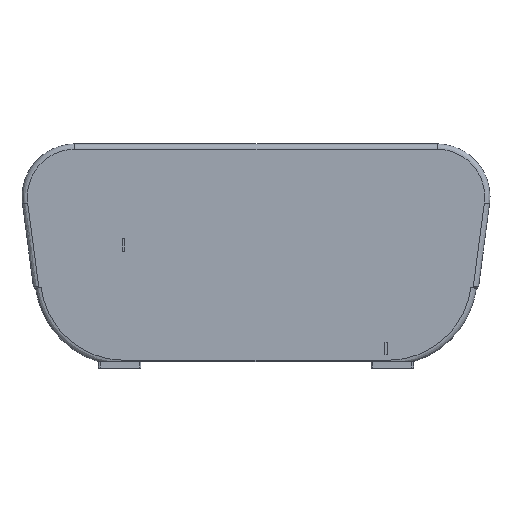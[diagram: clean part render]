
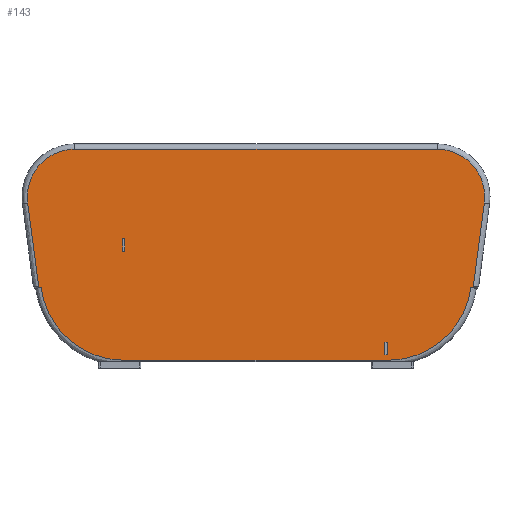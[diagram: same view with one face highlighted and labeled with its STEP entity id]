
A CAD part, left-side view. The second image highlights one B-rep face of the part: STEP entity #143.
In plain terms, the highlighted planar face has unit normal (-1, 0, 0).
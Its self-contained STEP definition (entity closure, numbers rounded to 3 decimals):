
#143=ADVANCED_FACE('',(#217),#1227,.T.);
#217=FACE_OUTER_BOUND('',#291,.T.);
#291=EDGE_LOOP('',(#365,#366,#367,#368,#369,#370,#371,#372,#373,#374));
#365=ORIENTED_EDGE('',*,*,#713,.F.);
#366=ORIENTED_EDGE('',*,*,#718,.F.);
#367=ORIENTED_EDGE('',*,*,#717,.T.);
#368=ORIENTED_EDGE('',*,*,#716,.F.);
#369=ORIENTED_EDGE('',*,*,#719,.F.);
#370=ORIENTED_EDGE('',*,*,#720,.F.);
#371=ORIENTED_EDGE('',*,*,#721,.F.);
#372=ORIENTED_EDGE('',*,*,#722,.F.);
#373=ORIENTED_EDGE('',*,*,#715,.T.);
#374=ORIENTED_EDGE('',*,*,#714,.T.);
#713=EDGE_CURVE('',#1088,#1083,#917,.T.);
#714=EDGE_CURVE('',#1084,#1083,#918,.T.);
#715=EDGE_CURVE('',#1085,#1084,#919,.T.);
#716=EDGE_CURVE('',#1092,#1086,#920,.T.);
#717=EDGE_CURVE('',#1087,#1086,#921,.T.);
#718=EDGE_CURVE('',#1087,#1088,#922,.T.);
#719=EDGE_CURVE('',#1090,#1092,#923,.T.);
#720=EDGE_CURVE('',#1091,#1090,#924,.T.);
#721=EDGE_CURVE('',#1089,#1091,#925,.T.);
#722=EDGE_CURVE('',#1085,#1089,#926,.T.);
#917=(
BOUNDED_CURVE()
B_SPLINE_CURVE(3,(#1410,#1411,#1412,#1413),.UNSPECIFIED.,.F.,.F.)
B_SPLINE_CURVE_WITH_KNOTS((4,4),(8108.543,8608.668),
 .UNSPECIFIED.)
CURVE()
GEOMETRIC_REPRESENTATION_ITEM()
RATIONAL_B_SPLINE_CURVE((1.,1.,1.,1.))
REPRESENTATION_ITEM('')
);
#918=(
BOUNDED_CURVE()
B_SPLINE_CURVE(3,(#1414,#1415,#1416,#1417),.UNSPECIFIED.,.F.,.F.)
B_SPLINE_CURVE_WITH_KNOTS((4,4),(-6527.433,-6285.677),
 .UNSPECIFIED.)
CURVE()
GEOMETRIC_REPRESENTATION_ITEM()
RATIONAL_B_SPLINE_CURVE((1.,0.835,0.835,1.))
REPRESENTATION_ITEM('')
);
#919=(
BOUNDED_CURVE()
B_SPLINE_CURVE(3,(#1418,#1419,#1420,#1421),.UNSPECIFIED.,.F.,.F.)
B_SPLINE_CURVE_WITH_KNOTS((4,4),(-6534.037,-6527.433),
 .UNSPECIFIED.)
CURVE()
GEOMETRIC_REPRESENTATION_ITEM()
RATIONAL_B_SPLINE_CURVE((1.,1.,1.,1.))
REPRESENTATION_ITEM('')
);
#920=(
BOUNDED_CURVE()
B_SPLINE_CURVE(3,(#1422,#1423,#1424,#1425),.UNSPECIFIED.,.F.,.F.)
B_SPLINE_CURVE_WITH_KNOTS((4,4),(7701.524,7860.183),
 .UNSPECIFIED.)
CURVE()
GEOMETRIC_REPRESENTATION_ITEM()
RATIONAL_B_SPLINE_CURVE((1.,1.,1.,1.))
REPRESENTATION_ITEM('')
);
#921=(
BOUNDED_CURVE()
B_SPLINE_CURVE(3,(#1426,#1427,#1428,#1429),.UNSPECIFIED.,.F.,.F.)
B_SPLINE_CURVE_WITH_KNOTS((4,4),(-7866.787,-7860.183),
 .UNSPECIFIED.)
CURVE()
GEOMETRIC_REPRESENTATION_ITEM()
RATIONAL_B_SPLINE_CURVE((1.,1.,1.,1.))
REPRESENTATION_ITEM('')
);
#922=(
BOUNDED_CURVE()
B_SPLINE_CURVE(3,(#1430,#1431,#1432,#1433),.UNSPECIFIED.,.F.,.F.)
B_SPLINE_CURVE_WITH_KNOTS((4,4),(7866.787,8108.543),
 .UNSPECIFIED.)
CURVE()
GEOMETRIC_REPRESENTATION_ITEM()
RATIONAL_B_SPLINE_CURVE((1.,0.835,0.835,1.))
REPRESENTATION_ITEM('')
);
#923=(
BOUNDED_CURVE()
B_SPLINE_CURVE(3,(#1434,#1435,#1436,#1437,#1438,#1439,#1440),
 .UNSPECIFIED.,.F.,.F.)
B_SPLINE_CURVE_WITH_KNOTS((4,3,4),(7531.267,7616.395,7701.524),
 .UNSPECIFIED.)
CURVE()
GEOMETRIC_REPRESENTATION_ITEM()
RATIONAL_B_SPLINE_CURVE((1.,0.941,0.941,1.,0.941,
0.941,1.))
REPRESENTATION_ITEM('')
);
#924=(
BOUNDED_CURVE()
B_SPLINE_CURVE(3,(#1441,#1442,#1443,#1444),.UNSPECIFIED.,.F.,.F.)
B_SPLINE_CURVE_WITH_KNOTS((4,4),(6845.926,7531.267),
 .UNSPECIFIED.)
CURVE()
GEOMETRIC_REPRESENTATION_ITEM()
RATIONAL_B_SPLINE_CURVE((1.,1.,1.,1.))
REPRESENTATION_ITEM('')
);
#925=(
BOUNDED_CURVE()
B_SPLINE_CURVE(3,(#1445,#1446,#1447,#1448,#1449,#1450,#1451),
 .UNSPECIFIED.,.F.,.F.)
B_SPLINE_CURVE_WITH_KNOTS((4,1,1,1,4),(6692.696,6731.003,
6769.311,6807.618,6845.926),.UNSPECIFIED.)
CURVE()
GEOMETRIC_REPRESENTATION_ITEM()
RATIONAL_B_SPLINE_CURVE((1.,1.,1.,1.,1.,1.,1.))
REPRESENTATION_ITEM('')
);
#926=(
BOUNDED_CURVE()
B_SPLINE_CURVE(3,(#1452,#1453,#1454,#1455),.UNSPECIFIED.,.F.,.F.)
B_SPLINE_CURVE_WITH_KNOTS((4,4),(6534.037,6692.696),
 .UNSPECIFIED.)
CURVE()
GEOMETRIC_REPRESENTATION_ITEM()
RATIONAL_B_SPLINE_CURVE((1.,1.,1.,1.))
REPRESENTATION_ITEM('')
);
#1083=VERTEX_POINT('',#1400);
#1084=VERTEX_POINT('',#1401);
#1085=VERTEX_POINT('',#1402);
#1086=VERTEX_POINT('',#1403);
#1087=VERTEX_POINT('',#1404);
#1088=VERTEX_POINT('',#1405);
#1089=VERTEX_POINT('',#1406);
#1090=VERTEX_POINT('',#1407);
#1091=VERTEX_POINT('',#1408);
#1092=VERTEX_POINT('',#1409);
#1227=PLANE('',#1350);
#1350=AXIS2_PLACEMENT_3D('',#1399,#1371,$);
#1371=DIRECTION('',(-1.,0.,0.));
#1399=CARTESIAN_POINT('',(0.,-444.041,418.));
#1400=CARTESIAN_POINT('',(0.,250.063,15.));
#1401=CARTESIAN_POINT('',(0.,406.693,152.24));
#1402=CARTESIAN_POINT('',(0.,411.044,154.892));
#1403=CARTESIAN_POINT('',(0.,-411.044,154.892));
#1404=CARTESIAN_POINT('',(0.,-406.693,152.24));
#1405=CARTESIAN_POINT('',(0.,-250.063,15.));
#1406=CARTESIAN_POINT('',(0.,431.89,312.175));
#1407=CARTESIAN_POINT('',(0.,-342.671,414.));
#1408=CARTESIAN_POINT('',(0.,342.671,414.));
#1409=CARTESIAN_POINT('',(0.,-431.89,312.175));
#1410=CARTESIAN_POINT('',(0.,-250.063,15.));
#1411=CARTESIAN_POINT('',(0.,-83.354,15.));
#1412=CARTESIAN_POINT('',(0.,83.354,15.));
#1413=CARTESIAN_POINT('',(0.,250.063,15.));
#1414=CARTESIAN_POINT('',(0.,406.693,152.24));
#1415=CARTESIAN_POINT('',(0.,395.767,69.803));
#1416=CARTESIAN_POINT('',(0.,333.221,15.));
#1417=CARTESIAN_POINT('',(0.,250.063,15.));
#1418=CARTESIAN_POINT('',(0.,411.044,154.892));
#1419=CARTESIAN_POINT('',(0.,411.044,152.997));
#1420=CARTESIAN_POINT('',(0.,409.594,152.113));
#1421=CARTESIAN_POINT('',(0.,406.693,152.24));
#1422=CARTESIAN_POINT('',(0.,-431.89,312.175));
#1423=CARTESIAN_POINT('',(0.,-424.942,259.747));
#1424=CARTESIAN_POINT('',(0.,-417.993,207.319));
#1425=CARTESIAN_POINT('',(0.,-411.044,154.892));
#1426=CARTESIAN_POINT('',(0.,-406.693,152.24));
#1427=CARTESIAN_POINT('',(0.,-409.594,152.113));
#1428=CARTESIAN_POINT('',(0.,-411.044,152.997));
#1429=CARTESIAN_POINT('',(0.,-411.044,154.892));
#1430=CARTESIAN_POINT('',(0.,-406.693,152.24));
#1431=CARTESIAN_POINT('',(0.,-395.767,69.803));
#1432=CARTESIAN_POINT('',(0.,-333.221,15.));
#1433=CARTESIAN_POINT('',(0.,-250.063,15.));
#1434=CARTESIAN_POINT('',(0.,-342.671,414.));
#1435=CARTESIAN_POINT('',(0.,-369.012,414.));
#1436=CARTESIAN_POINT('',(0.,-393.003,403.124));
#1437=CARTESIAN_POINT('',(0.,-410.362,383.312));
#1438=CARTESIAN_POINT('',(0.,-427.721,363.5));
#1439=CARTESIAN_POINT('',(0.,-435.351,338.288));
#1440=CARTESIAN_POINT('',(0.,-431.89,312.175));
#1441=CARTESIAN_POINT('',(0.,342.671,414.));
#1442=CARTESIAN_POINT('',(0.,114.224,414.));
#1443=CARTESIAN_POINT('',(0.,-114.224,414.));
#1444=CARTESIAN_POINT('',(0.,-342.671,414.));
#1445=CARTESIAN_POINT('',(0.,431.89,312.175));
#1446=CARTESIAN_POINT('',(0.,433.578,324.832));
#1447=CARTESIAN_POINT('',(0.,431.453,350.868));
#1448=CARTESIAN_POINT('',(0.,412.443,385.135));
#1449=CARTESIAN_POINT('',(0.,380.971,408.483));
#1450=CARTESIAN_POINT('',(0.,355.44,414.01));
#1451=CARTESIAN_POINT('',(0.,342.671,414.));
#1452=CARTESIAN_POINT('',(0.,411.044,154.892));
#1453=CARTESIAN_POINT('',(0.,417.993,207.319));
#1454=CARTESIAN_POINT('',(0.,424.942,259.747));
#1455=CARTESIAN_POINT('',(0.,431.89,312.175));
